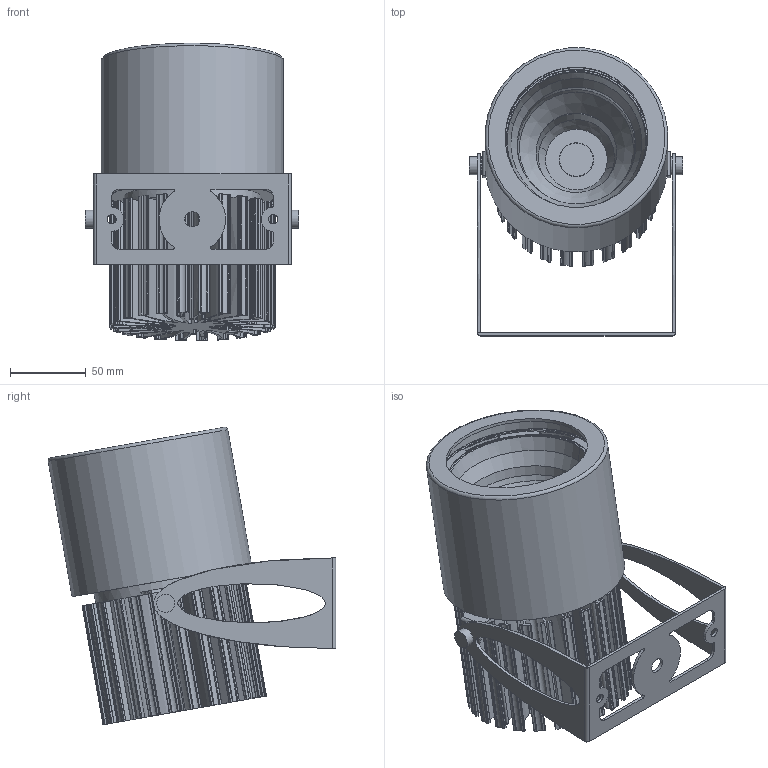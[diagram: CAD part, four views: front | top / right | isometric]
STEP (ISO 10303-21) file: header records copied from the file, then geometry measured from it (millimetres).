
FILE_DESCRIPTION(/* description */ (''),/* implementation_level */ '2;1');
FILE_NAME(/* name */ 'C:/Users/elena/OneDrive/Allegati di posta elettronica/Desktop/Leonardo bracket.step',/* time_stamp */ '2020-05-28T13:22:29+02:00',/* author */ (''),/* organization */ (''),/* preprocessor_version */ 'ST-DEVELOPER v18.1',/* originating_system */ 'Autodesk Translation Framework v9.3.0.1241',/* authorisation */ '');
FILE_SCHEMA (('AUTOMOTIVE_DESIGN { 1 0 10303 214 3 1 1 }'));
Length unit declared in the file: millimetre
Products named in the file (1): Pubblico
Bounding box: 141.5 x 190.49 x 196.97 mm (x, y, z)
Volume: 662823.4 mm3; surface area: 365869.3 mm2
Topology: 5 solids, 5 shells, 852 faces, 2655 edges, 1828 vertices
Faces by surface type: cylinder 642, plane 133, bspline 40, cone 21, torus 10, sphere 6
Full cylindrical faces by diameter (mm): 5 x2, 6 x2, 10 x1, 12 x4, 91.2 x2, 94.4 x1, 108.526 x1, 109.85 x1, 121.2 x1
Entity records: 32230 total; most frequent: CARTESIAN_POINT 7146, DIRECTION 5655, ORIENTED_EDGE 5310, EDGE_CURVE 2655, AXIS2_PLACEMENT_3D 2247, VERTEX_POINT 1828, CIRCLE 1418, LINE 1161
